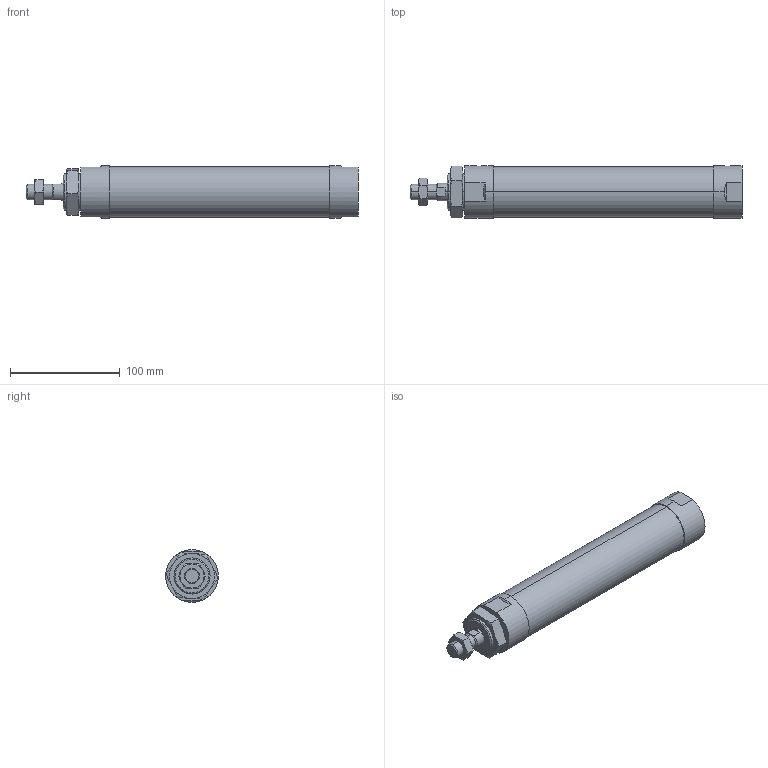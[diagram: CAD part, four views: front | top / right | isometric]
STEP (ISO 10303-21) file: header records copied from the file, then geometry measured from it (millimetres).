
FILE_DESCRIPTION (( 'STEP AP203' ), '1' );
FILE_NAME ('JGND2-40-150-N.STEP', '2016-08-04T03:13:12', ( '' ), ( '' ), 'SwSTEP 2.0', 'SolidWorks 2014', '' );
FILE_SCHEMA (( 'CONFIG_CONTROL_DESIGN' ));
Length unit declared in the file: millimetre
Products named in the file (4): J#2-40-150(P); JGND2-40-150-N
Assembly tree (3 placements, depth 2):
  JGND2-40-150-N
    J#2-40-150(P)
    (unnamed)
    (unnamed)
Bounding box: 303 x 48 x 48 mm (x, y, z)
Volume: 453470.6 mm3; surface area: 50516.4 mm2
Topology: 3 solids, 3 shells, 89 faces, 200 edges, 119 vertices
Faces by surface type: plane 32, torus 24, cylinder 20, cone 13
Entity records: 3305 total; most frequent: CARTESIAN_POINT 1001, DIRECTION 395, ORIENTED_EDGE 392, EDGE_CURVE 196, AXIS2_PLACEMENT_3D 167, VERTEX_POINT 119, EDGE_LOOP 99, ADVANCED_FACE 89
